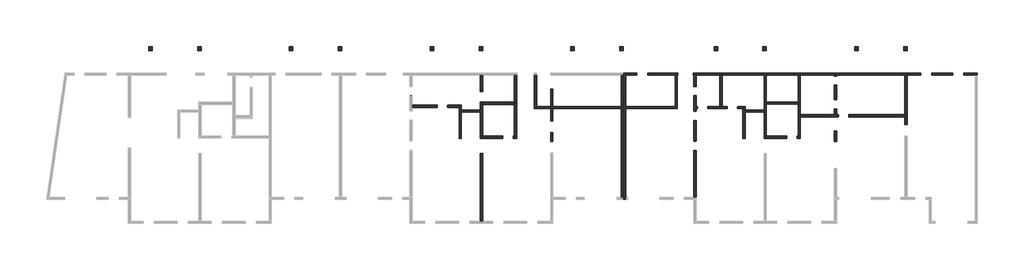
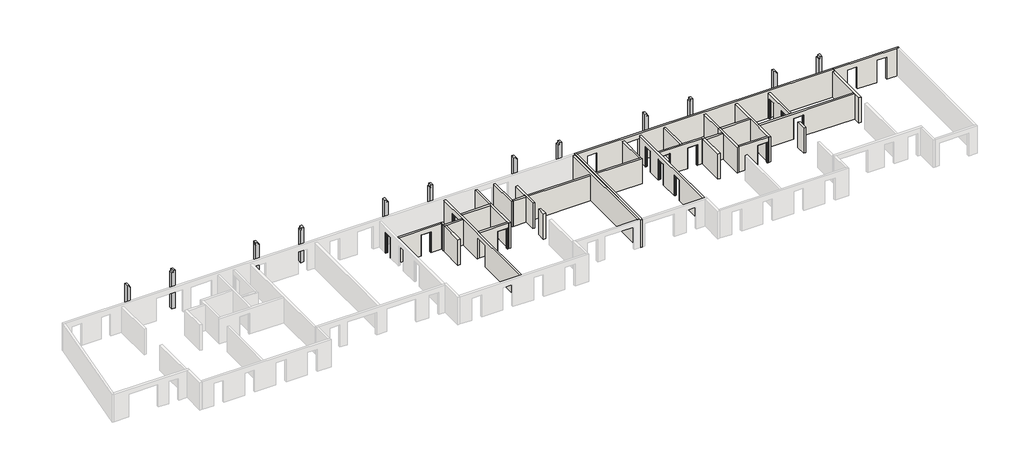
# One storey, part 2 of 2: 35 walls, 13 doors, 12 columns.
"""IFC4 building model written with IfcOpenShell, lengths in millimetres."""

from ifc_helpers import new_model, si_unit, frame, origin, origin_with_axes, place, context, project, spatial, polyline, outline, extrude, faceted_brep, transform, mapped, element, save
from components import door_48b161e2, door_a0d7bfd5, door_067a82eb

model = new_model("IFC4")

# Units and contexts
model_context = context("Model", 3, world=origin())
ifc_project = project(units=[si_unit("LENGTHUNIT", "METRE", prefix="MILLI")], contexts=[model_context])

# Site, building, storey
site = spatial("IfcSite", under=ifc_project)
building = spatial("IfcBuilding", under=site)
storey = spatial("IfcBuildingStorey", under=building, Name="Niv RdC-F", Elevation=0.0)

# Columns
placement = place(None, origin())
element("IfcColumn", 1, ObjectType="FREYS POTEAU BETON RECTANGULAIRE : Poteau 35*30 C25/30 EXT", at=placement, inside=storey, context=model_context, shape_type="Brep", body=[
    faceted_brep([(-22605.3743903, 8696.3428728, -1050.0), (-22605.3743903, 8346.3428728, -1050.0), (-22905.3743903, 8346.3428728, -1050.0), (-22905.3743903, 8696.3428728, -1050.0), (-22605.3743903, 8696.3428728, 2400.0), (-22605.3743903, 8696.3428728, 2500.0), (-22605.3743903, 8346.3428728, 2500.0), (-22605.3743903, 8346.3428728, 2400.0), (-22725.443151, 8346.3428728, 2500.0), (-22725.443151, 8346.3428728, 2700.0), (-22905.3743903, 8346.3428728, 2700.0), (-22905.3743903, 8696.3428728, 2700.0), (-22725.443151, 8696.3428728, 2700.0), (-22725.443151, 8696.3428728, 2500.0)], [[[0, 1, 2, 3]], [[1, 0, 4, 5, 6, 7]], [[2, 1, 7, 6, 8, 9, 10]], [[3, 2, 10, 11]], [[0, 3, 11, 12, 13, 5, 4]], [[11, 10, 9, 12]], [[13, 8, 6, 5]], [[8, 13, 12, 9]]]),
])
element("IfcColumn", 2, ObjectType="FREYS POTEAU BETON RECTANGULAIRE : Poteau 35*30 C25/30 EXT", at=placement, inside=storey, context=model_context, shape_type="Brep", body=[
    faceted_brep([(-18435.4687193, 8696.3428728, -1050.0), (-18435.4687193, 8346.3428728, -1050.0), (-18735.4687193, 8346.3428728, -1050.0), (-18735.4687193, 8696.3428728, -1050.0), (-18435.4687193, 8696.3428728, 2160.0), (-18435.4687193, 8696.3428728, 2700.0), (-18435.4687193, 8346.3428728, 2700.0), (-18435.4687193, 8346.3428728, 2160.0), (-18615.4433224, 8346.3428728, 2700.0), (-18615.4433224, 8346.3428728, 2500.0), (-18635.4687193, 8346.3428728, 2500.0), (-18735.4687193, 8346.3428728, 2500.0), (-18735.4687193, 8696.3428728, 2500.0), (-18635.4687193, 8696.3428728, 2500.0), (-18615.4433224, 8696.3428728, 2500.0), (-18615.4433224, 8696.3428728, 2700.0)], [[[0, 1, 2, 3]], [[1, 0, 4, 5, 6, 7]], [[2, 1, 7, 6, 8, 9, 10, 11]], [[3, 2, 11, 12]], [[0, 3, 12, 13, 14, 15, 5, 4]], [[6, 5, 15, 8]], [[9, 14, 13, 12, 11, 10]], [[14, 9, 8, 15]]]),
])
element("IfcColumn", 3, ObjectType="FREYS POTEAU BETON RECTANGULAIRE : Poteau 35*30 C25/30 EXT", at=placement, inside=storey, context=model_context, shape_type="Brep", body=[
    faceted_brep([(-10605.3743903, 8696.3428728, -690.0), (-10605.3743903, 8346.3428728, -690.0), (-10905.3743903, 8346.3428728, -690.0), (-10905.3743903, 8696.3428728, -690.0), (-10605.3743903, 8696.3428728, 2400.0), (-10605.3743903, 8696.3428728, 2500.0), (-10605.3743903, 8346.3428728, 2500.0), (-10605.3743903, 8346.3428728, 2400.0), (-10725.0456065, 8346.3428728, 2500.0), (-10725.0456065, 8346.3428728, 2700.0), (-10905.0456065, 8346.3428728, 2700.0), (-10905.3743903, 8346.3428728, 2700.0), (-10905.3743903, 8346.3428728, 2670.0057001), (-10905.0456065, 8346.3428728, 2670.0), (-10905.0456065, 8346.3428728, 2490.0), (-10905.3743903, 8346.3428728, 2490.0), (-10905.3743903, 8696.3428728, 2700.0), (-10905.3743903, 8696.3428728, 2670.0057001), (-10905.3743903, 8696.3428728, 2490.0), (-10905.0456065, 8696.3428728, 2490.0), (-10905.0456065, 8696.3428728, 2670.0), (-10905.0456065, 8696.3428728, 2700.0), (-10725.0456065, 8696.3428728, 2700.0), (-10725.0456065, 8696.3428728, 2500.0)], [[[0, 1, 2, 3]], [[1, 0, 4, 5, 6, 7]], [[2, 1, 7, 6, 8, 9, 10, 11, 12, 13, 14, 15]], [[11, 16, 17, 12]], [[0, 3, 18, 19, 20, 17, 16, 21, 22, 23, 5, 4]], [[16, 11, 10, 9, 22, 21]], [[23, 8, 6, 5]], [[8, 23, 22, 9]], [[14, 19, 18, 15]], [[19, 14, 13, 20]], [[20, 13, 12, 17]], [[3, 2, 15, 18]]]),
])
element("IfcColumn", 4, ObjectType="FREYS POTEAU BETON RECTANGULAIRE : Poteau 35*30 C25/30 EXT", at=placement, inside=storey, context=model_context, shape_type="Brep", body=[
    faceted_brep([(-6435.4687193, 8696.3428728, -690.0), (-6435.4687193, 8346.3428728, -690.0), (-6735.4687193, 8346.3428728, -690.0), (-6735.4687193, 8696.3428728, -690.0), (-6435.4687193, 8696.3428728, 2160.0), (-6435.4687193, 8696.3428728, 2700.0), (-6435.4687193, 8346.3428728, 2700.0), (-6435.4687193, 8346.3428728, 2160.0), (-6635.0711747, 8346.3428728, 2700.0), (-6635.4433224, 8346.3428728, 2700.0), (-6635.4433224, 8346.3428728, 2500.0), (-6735.4687193, 8346.3428728, 2500.0), (-6735.4687193, 8696.3428728, 2500.0), (-6635.4433224, 8696.3428728, 2500.0), (-6635.4433224, 8696.3428728, 2700.0), (-6635.0711747, 8696.3428728, 2700.0)], [[[0, 1, 2, 3]], [[1, 0, 4, 5, 6, 7]], [[2, 1, 7, 6, 8, 9, 10, 11]], [[3, 2, 11, 12]], [[0, 3, 12, 13, 14, 15, 5, 4]], [[6, 5, 15, 14, 9, 8]], [[10, 13, 12, 11]], [[13, 10, 9, 14]]]),
])
element("IfcColumn", 5, ObjectType="FREYS POTEAU BETON RECTANGULAIRE : Poteau 35*30 C25/30 EXT", at=placement, inside=storey, context=model_context, shape_type="Brep", body=[
    faceted_brep([(1394.6256097, 8696.3428728, -690.0), (1394.6256097, 8346.3428728, -690.0), (1094.6256097, 8346.3428728, -690.0), (1094.6256097, 8696.3428728, -690.0), (1394.6256097, 8696.3428728, 2400.0), (1394.6256097, 8696.3428728, 2500.0), (1394.6256097, 8346.3428728, 2500.0), (1394.6256097, 8346.3428728, 2400.0), (1274.556849, 8346.3428728, 2500.0), (1274.556849, 8346.3428728, 2700.0), (1094.6256097, 8346.3428728, 2700.0), (1094.6256097, 8696.3428728, 2700.0), (1274.556849, 8696.3428728, 2700.0), (1274.556849, 8696.3428728, 2500.0)], [[[0, 1, 2, 3]], [[1, 0, 4, 5, 6, 7]], [[2, 1, 7, 6, 8, 9, 10]], [[3, 2, 10, 11]], [[0, 3, 11, 12, 13, 5, 4]], [[11, 10, 9, 12]], [[13, 8, 6, 5]], [[8, 13, 12, 9]]]),
])
element("IfcColumn", 6, ObjectType="FREYS POTEAU BETON RECTANGULAIRE : Poteau 35*30 C25/30 EXT", at=placement, inside=storey, context=model_context, shape_type="Brep", body=[
    faceted_brep([(5564.5312807, 8696.3428728, -690.0), (5564.5312807, 8346.3428728, -690.0), (5264.5312807, 8346.3428728, -690.0), (5264.5312807, 8696.3428728, -690.0), (5564.5312807, 8696.3428728, 2160.0), (5564.5312807, 8696.3428728, 2700.0), (5564.5312807, 8346.3428728, 2700.0), (5564.5312807, 8346.3428728, 2160.0), (5374.5566776, 8346.3428728, 2700.0), (5374.5566776, 8346.3428728, 2500.0), (5364.5312807, 8346.3428728, 2500.0), (5264.5312807, 8346.3428728, 2500.0), (5264.5312807, 8696.3428728, 2500.0), (5364.5312807, 8696.3428728, 2500.0), (5374.5566776, 8696.3428728, 2500.0), (5374.5566776, 8696.3428728, 2700.0)], [[[0, 1, 2, 3]], [[1, 0, 4, 5, 6, 7]], [[2, 1, 7, 6, 8, 9, 10, 11]], [[3, 2, 11, 12]], [[0, 3, 12, 13, 14, 15, 5, 4]], [[6, 5, 15, 8]], [[9, 14, 13, 12, 11, 10]], [[14, 9, 8, 15]]]),
])
element("IfcColumn", 7, ObjectType="FREYS POTEAU BETON RECTANGULAIRE : Poteau 35*30 C25/30 EXT", at=placement, inside=storey, context=model_context, shape_type="Brep", body=[
    faceted_brep([(13394.6256097, 8696.3428728, -950.0), (13394.6256097, 8346.3428728, -950.0), (13094.6256097, 8346.3428728, -950.0), (13094.6256097, 8696.3428728, -950.0), (13394.6256097, 8696.3428728, 2400.0), (13394.6256097, 8696.3428728, 2500.0), (13394.6256097, 8346.3428728, 2500.0), (13394.6256097, 8346.3428728, 2400.0), (13275.4308018, 8346.3428728, 2500.0), (13275.4308018, 8346.3428728, 2700.0), (13094.6256097, 8346.3428728, 2700.0), (13094.6256097, 8696.3428728, 2700.0), (13275.4308018, 8696.3428728, 2700.0), (13275.4308018, 8696.3428728, 2500.0)], [[[0, 1, 2, 3]], [[1, 0, 4, 5, 6, 7]], [[2, 1, 7, 6, 8, 9, 10]], [[3, 2, 10, 11]], [[0, 3, 11, 12, 13, 5, 4]], [[11, 10, 9, 12]], [[13, 8, 6, 5]], [[8, 13, 12, 9]]]),
])
element("IfcColumn", 8, ObjectType="FREYS POTEAU BETON RECTANGULAIRE : Poteau 35*30 C25/30 EXT", at=placement, inside=storey, context=model_context, shape_type="Brep", body=[
    faceted_brep([(17554.5471618, 8696.3428728, -950.0), (17554.5471618, 8346.3428728, -950.0), (17254.5471618, 8346.3428728, -950.0), (17254.5471618, 8696.3428728, -950.0), (17554.5471618, 8696.3428728, 2160.0), (17554.5471618, 8696.3428728, 2700.0), (17554.5471618, 8346.3428728, 2700.0), (17554.5471618, 8346.3428728, 2160.0), (17374.5566776, 8346.3428728, 2700.0), (17374.5566776, 8346.3428728, 2500.0), (17364.5312807, 8346.3428728, 2500.0), (17254.5471618, 8346.3428728, 2500.0), (17254.5471618, 8696.3428728, 2500.0), (17364.5312807, 8696.3428728, 2500.0), (17374.5566776, 8696.3428728, 2500.0), (17374.5566776, 8696.3428728, 2700.0)], [[[0, 1, 2, 3]], [[1, 0, 4, 5, 6, 7]], [[2, 1, 7, 6, 8, 9, 10, 11]], [[3, 2, 11, 12]], [[0, 3, 12, 13, 14, 15, 5, 4]], [[6, 5, 15, 8]], [[9, 14, 13, 12, 11, 10]], [[14, 9, 8, 15]]]),
])
element("IfcColumn", 9, ObjectType="FREYS POTEAU BETON RECTANGULAIRE : Poteau 35*30 C25/30 EXT", at=placement, inside=storey, context=model_context, shape_type="Brep", body=[
    faceted_brep([(25594.6256097, 8696.3428728, 40.0), (25594.6256097, 8346.3428728, 40.0), (25294.6256097, 8346.3428728, 40.0), (25294.6256097, 8696.3428728, 40.0), (25594.6256097, 8696.3428728, 2400.0), (25594.6256097, 8696.3428728, 2500.0), (25594.6256097, 8346.3428728, 2500.0), (25594.6256097, 8346.3428728, 2400.0), (25474.556849, 8346.3428728, 2500.0), (25474.556849, 8346.3428728, 2700.0), (25294.6256097, 8346.3428728, 2700.0), (25294.6256097, 8696.3428728, 2700.0), (25474.556849, 8696.3428728, 2700.0), (25474.556849, 8696.3428728, 2500.0)], [[[0, 1, 2, 3]], [[1, 0, 4, 5, 6, 7]], [[2, 1, 7, 6, 8, 9, 10]], [[3, 2, 10, 11]], [[0, 3, 11, 12, 13, 5, 4]], [[11, 10, 9, 12]], [[13, 8, 6, 5]], [[8, 13, 12, 9]]]),
])
element("IfcColumn", 10, ObjectType="FREYS POTEAU BETON RECTANGULAIRE : Poteau 35*30 C25/30 EXT", at=placement, inside=storey, context=model_context, shape_type="Brep", body=[
    faceted_brep([(29764.5312807, 8696.3428728, 40.0), (29764.5312807, 8346.3428728, 40.0), (29464.5312807, 8346.3428728, 40.0), (29464.5312807, 8696.3428728, 40.0), (29764.5312807, 8696.3428728, 2160.0), (29764.5312807, 8696.3428728, 2700.0), (29764.5312807, 8346.3428728, 2700.0), (29764.5312807, 8346.3428728, 2160.0), (29584.5566776, 8346.3428728, 2700.0), (29584.5566776, 8346.3428728, 2500.0), (29564.5312807, 8346.3428728, 2500.0), (29464.5312807, 8346.3428728, 2500.0), (29464.5312807, 8696.3428728, 2500.0), (29564.5312807, 8696.3428728, 2500.0), (29584.5566776, 8696.3428728, 2500.0), (29584.5566776, 8696.3428728, 2700.0)], [[[0, 1, 2, 3]], [[1, 0, 4, 5, 6, 7]], [[2, 1, 7, 6, 8, 9, 10, 11]], [[3, 2, 11, 12]], [[0, 3, 12, 13, 14, 15, 5, 4]], [[6, 5, 15, 8]], [[9, 14, 13, 12, 11, 10]], [[14, 9, 8, 15]]]),
])
element("IfcColumn", 11, ObjectType="FREYS POTEAU BETON RECTANGULAIRE : Poteau 35*30 C25/30 EXT", at=placement, inside=storey, context=model_context, shape_type="Brep", body=[
    faceted_brep([(37594.6256097, 8696.3428728, 40.0), (37594.6256097, 8346.3428728, 40.0), (37294.6256097, 8346.3428728, 40.0), (37294.6256097, 8696.3428728, 40.0), (37594.6256097, 8696.3428728, 2400.0), (37594.6256097, 8696.3428728, 2500.0), (37594.6256097, 8346.3428728, 2500.0), (37594.6256097, 8346.3428728, 2400.0), (37474.5566776, 8346.3428728, 2500.0), (37474.5566776, 8346.3428728, 2700.0), (37294.6256097, 8346.3428728, 2700.0), (37294.6256097, 8696.3428728, 2700.0), (37474.5566776, 8696.3428728, 2700.0), (37474.5566776, 8696.3428728, 2500.0)], [[[0, 1, 2, 3]], [[1, 0, 4, 5, 6, 7]], [[2, 1, 7, 6, 8, 9, 10]], [[3, 2, 10, 11]], [[0, 3, 11, 12, 13, 5, 4]], [[11, 10, 9, 12]], [[13, 8, 6, 5]], [[8, 13, 12, 9]]]),
])
element("IfcColumn", 12, ObjectType="FREYS POTEAU BETON RECTANGULAIRE : Poteau 35*30 C25/30 EXT", at=placement, inside=storey, context=model_context, shape_type="Brep", body=[
    faceted_brep([(41764.5312807, 8696.3428728, 350.0), (41764.5312807, 8346.3428728, 350.0), (41464.5312807, 8346.3428728, 350.0), (41464.5312807, 8696.3428728, 350.0), (41764.5312807, 8696.3428728, 2160.0), (41764.5312807, 8696.3428728, 2700.0), (41764.5312807, 8346.3428728, 2700.0), (41764.5312807, 8346.3428728, 2160.0), (41564.5566776, 8346.3428728, 2700.0), (41564.5566776, 8346.3428728, 2500.0), (41464.5312807, 8346.3428728, 2500.0), (41464.5312807, 8696.3428728, 2500.0), (41564.5566776, 8696.3428728, 2500.0), (41564.5566776, 8696.3428728, 2700.0)], [[[0, 1, 2, 3]], [[1, 0, 4, 5, 6, 7]], [[2, 1, 7, 6, 8, 9, 10]], [[3, 2, 10, 11]], [[0, 3, 11, 12, 13, 5, 4]], [[6, 5, 13, 8]], [[9, 12, 11, 10]], [[12, 9, 8, 13]]]),
])

# Doors
door_shape = door_48b161e2(model_context)
element("IfcDoor", 13, ObjectType="FREYS HUISSERIE A BANCHER : FREYS 83*2.035", at=placement, inside=storey, context=model_context, shape_type="MappedRepresentation", body=[
    mapped(door_shape, transform((-535.4687207, 4861.1247819, 0.0), x_axis=(0.0, -1.0, 0.0), y_axis=(1.0, 0.0, 0.0), z_axis=(0.0, 0.0, 1.0))),
])
element("IfcDoor", 14, ObjectType="FREYS HUISSERIE A BANCHER : FREYS 83*2.035", at=placement, inside=storey, context=model_context, shape_type="MappedRepresentation", body=[
    mapped(door_shape, transform((23664.5564317, 4876.1247664, 0.0), x_axis=(0.0, -1.0, 0.0), y_axis=(1.0, 0.0, 0.0), z_axis=(0.0, 0.0, 1.0))),
])
element("IfcDoor", 15, ObjectType="FREYS HUISSERIE A BANCHER : FREYS 83*2.035", at=placement, inside=storey, context=model_context, shape_type="MappedRepresentation", body=[
    mapped(door_shape, transform((23664.5564317, 2756.1563277, 0.0), x_axis=(0.0, -1.0, 0.0), y_axis=(1.0, 0.0, 0.0), z_axis=(0.0, 0.0, 1.0))),
])
element("IfcDoor", 16, ObjectType="FREYS HUISSERIE A BANCHER : FREYS 83*2.035", at=placement, inside=storey, context=model_context, shape_type="MappedRepresentation", body=[
    mapped(door_shape, transform((23664.5564317, 222.4877305, 0.0), x_axis=(0.0, 1.0, 0.0), y_axis=(-1.0, 0.0, 0.0), z_axis=(0.0, 0.0, 1.0))),
])
element("IfcDoor", 17, ObjectType="FREYS HUISSERIE A BANCHER : FREYS 83*2.035", at=placement, inside=storey, context=model_context, shape_type="MappedRepresentation", body=[
    mapped(door_shape, transform((35665.2937926, 5773.1542132, 0.0), x_axis=(0.0, -1.0, 0.0), y_axis=(1.0, 0.0, 0.0), z_axis=(0.0, 0.0, 1.0))),
])
element("IfcDoor", 18, ObjectType="FREYS HUISSERIE A BANCHER : FREYS 83*2.035", at=placement, inside=storey, context=model_context, shape_type="MappedRepresentation", body=[
    mapped(door_shape, transform((35665.2937926, 3743.1542132, 0.0), x_axis=(0.0, -1.0, 0.0), y_axis=(1.0, 0.0, 0.0), z_axis=(0.0, 0.0, 1.0))),
])
door_2_shape = door_a0d7bfd5(model_context)
element("IfcDoor", 19, ObjectType="FREYS HUISSERIE A BANCHER : FREYS 93*2.035", at=placement, inside=storey, context=model_context, shape_type="MappedRepresentation", body=[
    mapped(door_2_shape, transform((7719.3181732, 946.3022753, 0.0), x_axis=(-1.0, 0.0, 0.0), y_axis=(0.0, -1.0, 0.0), z_axis=(0.0, 0.0, 1.0))),
])
element("IfcDoor", 20, ObjectType="FREYS HUISSERIE A BANCHER : FREYS 93*2.035", at=placement, inside=storey, context=model_context, shape_type="MappedRepresentation", body=[
    mapped(door_2_shape, transform((31922.0230132, 946.3174361, 0.0), x_axis=(-1.0, 0.0, 0.0), y_axis=(0.0, -1.0, 0.0), z_axis=(0.0, 0.0, 1.0))),
])
element("IfcDoor", 21, ObjectType="FREYS HUISSERIE A BANCHER : FREYS 93*2.035", at=placement, inside=storey, context=model_context, shape_type="MappedRepresentation", body=[
    mapped(door_2_shape, transform((2137.6947499, 3586.3145698, 0.0), x_axis=(1.0, 0.0, 0.0), y_axis=(0.0, 1.0, 0.0), z_axis=(0.0, 0.0, 1.0))),
])
element("IfcDoor", 22, ObjectType="FREYS HUISSERIE A BANCHER : FREYS 93*2.035", at=placement, inside=storey, context=model_context, shape_type="MappedRepresentation", body=[
    mapped(door_2_shape, transform((24321.3677749, 3466.3174477, 0.0), x_axis=(-1.0, 0.0, 0.0), y_axis=(0.0, -1.0, 0.0), z_axis=(0.0, 0.0, 1.0))),
])
element("IfcDoor", 23, ObjectType="FREYS HUISSERIE A BANCHER : FREYS 93*2.035", at=placement, inside=storey, context=model_context, shape_type="MappedRepresentation", body=[
    mapped(door_2_shape, transform((26851.3174382, 3466.3174477, 0.0), x_axis=(-1.0, 0.0, 0.0), y_axis=(0.0, -1.0, 0.0), z_axis=(0.0, 0.0, 1.0))),
])
element("IfcDoor", 24, ObjectType="FREYS HUISSERIE A BANCHER : FREYS 93*2.035", at=placement, inside=storey, context=model_context, shape_type="MappedRepresentation", body=[
    mapped(door_2_shape, transform((36342.1051359, 2776.3425364, 0.0), x_axis=(-1.0, 0.0, 0.0), y_axis=(0.0, -1.0, 0.0), z_axis=(0.0, 0.0, 1.0))),
])
door_3_shape = door_067a82eb(model_context)
element("IfcDoor", 25, ObjectType="FREYS HUISSERIE A BANCHER : FREYS 93*2.035", at=placement, inside=storey, context=model_context, shape_type="MappedRepresentation", body=[
    mapped(door_3_shape, transform((5464.5312777, 4409.5061084, 0.0), x_axis=(0.0, 1.0, 0.0), y_axis=(-1.0, 0.0, 0.0), z_axis=(0.0, 0.0, 1.0))),
])

# Walls
element("IfcWall", 26, ObjectType="FREYS voile BA C25/30 ep=18 INT", at=placement, inside=storey, context=model_context, shape_type="Brep", body=[
    faceted_brep([(17594.5566776, 6426.3428699, 0.0), (17594.5566776, -4353.682553, 0.0), (17594.5566776, -4353.682553, 2700.0), (17594.5566776, 6426.3428699, 2700.0), (17774.5566776, 6426.3428699, 0.0), (17774.5566776, 6426.3428699, 2700.0), (17774.5566776, 6246.3428699, 2700.0), (17774.5566776, -4173.682553, 2700.0), (17774.5566776, -4353.682553, 2700.0), (17774.5566776, -4353.682553, 0.0), (17774.5566776, -4173.682553, 0.0), (17774.5566776, 3376.3174477, 0.0), (17774.5566776, 3556.3174477, 0.0), (17774.5566776, 6246.3428699, 0.0)], [[[0, 1, 2, 3]], [[4, 5, 6, 7, 8, 9, 10, 11, 12, 13]], [[1, 0, 4, 13, 12, 11, 10, 9]], [[3, 2, 8, 7, 6, 5]], [[2, 1, 9, 8]], [[0, 3, 5, 4]]]),
])
element("IfcWall", 27, ObjectType="FREYS voile BA C25/30 ep=20 INT", at=placement, inside=storey, context=model_context, shape_type="Brep", body=[
    faceted_brep([(23564.5564317, 2349.3449844, 0.0), (23564.5564317, 629.2990738, 0.0), (23564.5564317, 629.2990738, 2035.0), (23564.5564317, -200.7009262, 2035.0), (23564.5564317, -200.7009262, 0.0), (23564.5564317, -4163.6571301, 0.0), (23564.5564317, -4163.6571301, 2500.0), (23564.5564317, 6246.3428699, 2500.0), (23564.5564317, 6246.3428699, 0.0), (23564.5564317, 5299.3134231, 0.0), (23564.5564317, 5299.3134231, 2035.0), (23564.5564317, 4469.3134231, 2035.0), (23564.5564317, 4469.3134231, 0.0), (23564.5564317, 3179.3449844, 0.0), (23564.5564317, 3179.3449844, 2035.0), (23564.5564317, 2349.3449844, 2035.0), (23764.5564317, 629.2990738, 2035.0), (23764.5564317, 629.2990738, 0.0), (23764.5564317, 2349.3449844, 0.0), (23764.5564317, 2349.3449844, 2035.0), (23764.5564317, 3179.3449844, 2035.0), (23764.5564317, 3179.3449844, 0.0), (23764.5564317, 3376.3174477, 0.0), (23764.5564317, 3556.3174477, 0.0), (23764.5564317, 4469.3134231, 0.0), (23764.5564317, 4469.3134231, 2035.0), (23764.5564317, 5299.3134231, 2035.0), (23764.5564317, 5299.3134231, 0.0), (23764.5564317, 6246.3428699, 0.0), (23764.5564317, 6246.3428699, 2500.0), (23764.5564317, -4163.6571301, 2500.0), (23764.5564317, -4163.6571301, 0.0), (23764.5564317, -200.7009262, 0.0), (23764.5564317, -200.7009262, 2035.0)], [[[0, 1, 2, 3, 4, 5, 6, 7, 8, 9, 10, 11, 12, 13, 14, 15]], [[16, 17, 18, 19, 20, 21, 22, 23, 24, 25, 26, 27, 28, 29, 30, 31, 32, 33]], [[9, 8, 28, 27]], [[13, 12, 24, 23, 22, 21]], [[32, 31, 5, 4]], [[18, 17, 1, 0]], [[6, 5, 31, 30]], [[7, 6, 30, 29]], [[8, 7, 29, 28]], [[27, 26, 10, 9]], [[25, 24, 12, 11]], [[26, 25, 11, 10]], [[21, 20, 14, 13]], [[19, 18, 0, 15]], [[20, 19, 15, 14]], [[4, 3, 33, 32]], [[2, 1, 17, 16]], [[3, 2, 16, 33]]]),
])
element("IfcWall", 28, ObjectType="FREYS voile BA C25/30 ep=20 INT", at=placement, inside=storey, context=model_context, shape_type="Brep", body=[
    faceted_brep([(27964.5312756, 856.3174386, 0.0), (27964.5312756, 3086.3428384, 0.0), (27964.5312756, 3286.3428384, 0.0), (27964.5312756, 3286.3428384, 2500.0), (27964.5312756, 3086.3428384, 2500.0), (27964.5312756, 856.3174386, 2500.0), (27764.5312756, 856.3174386, 0.0), (27764.5312756, 856.3174386, 2500.0), (27764.5312756, 3286.3428384, 2500.0), (27764.5312756, 3286.3428384, 0.0)], [[[0, 1, 2, 3, 4, 5]], [[6, 7, 8, 9]], [[2, 1, 0, 6, 9]], [[5, 4, 3, 8, 7]], [[0, 5, 7, 6]], [[3, 2, 9, 8]]]),
])
element("IfcWall", 29, ObjectType="FREYS voile BA C25/30 ep=20 INT", at=placement, inside=storey, context=model_context, shape_type="SweptSolid", body=[
    extrude(outline(polyline([(29564.5058756, 3086.3428384), (27964.5312756, 3086.3428384), (27964.5312756, 3286.3428384), (29564.5058756, 3286.3428384), (29564.5058756, 3086.3428384)])), origin_with_axes(), (0.0, 0.0, 1.0), 2500.0),
])
element("IfcWall", 30, ObjectType="FREYS voile BA C25/30 ep=20 INT", at=placement, inside=storey, context=model_context, shape_type="Brep", body=[
    faceted_brep([(29764.5058756, 856.3174361, 0.0), (29764.5058756, 1036.3174361, 0.0), (29764.5058756, 3756.3174386, 0.0), (29764.5058756, 3936.3174386, 0.0), (29764.5058756, 3936.3174386, 2500.0), (29764.5058756, 3756.3174386, 2500.0), (29764.5058756, 1036.3174361, 2500.0), (29764.5058756, 856.3174361, 2500.0), (29564.5058756, 856.3174361, 0.0), (29564.5058756, 856.3174361, 2500.0), (29564.5058756, 3086.3428384, 2500.0), (29564.5058756, 3286.3428384, 2500.0), (29564.5058756, 3936.3174386, 2500.0), (29564.5058756, 3936.3174386, 0.0), (29564.5058756, 3286.3428384, 0.0), (29564.5058756, 3086.3428384, 0.0)], [[[0, 1, 2, 3, 4, 5, 6, 7]], [[8, 9, 10, 11, 12, 13, 14, 15]], [[3, 2, 1, 0, 8, 15, 14, 13]], [[7, 6, 5, 4, 12, 11, 10, 9]], [[0, 7, 9, 8]], [[3, 13, 12, 4]]]),
])
element("IfcWall", 31, ObjectType="FREYS voile BA C25/30 ep=20 INT", at=placement, inside=storey, context=model_context, shape_type="Brep", body=[
    faceted_brep([(41564.5566776, 6246.3428699, 0.0), (41564.5566776, 2866.3425364, 0.0), (41564.5566776, 2686.3425364, 0.0), (41564.5566776, 2016.3428653, 0.0), (41564.5566776, 2016.3428653, 2500.0), (41564.5566776, 6246.3428699, 2500.0), (41764.5566776, 6246.3428699, 0.0), (41764.5566776, 6246.3428699, 2500.0), (41764.5566776, 2016.3428653, 2500.0), (41764.5566776, 2016.3428653, 0.0), (41664.5566776, 6246.3428699, 2500.0)], [[[0, 1, 2, 3, 4, 5]], [[6, 7, 8, 9]], [[3, 2, 1, 0, 6, 9]], [[4, 3, 9, 8]], [[5, 4, 8, 7, 10]], [[0, 5, 10, 7, 6]]]),
])
element("IfcWall", 32, ObjectType="FREYS voile BA C25/30 ep=18 EXT", at=placement, inside=storey, context=model_context, shape_type="SweptSolid", body=[
    extrude(outline(polyline([(2700.0, 47754.5312794), (2700.0, 41664.5566776), (2500.0, 41664.5566776), (2500.0, 41764.5566776), (0.0, 41764.5566776), (0.0, 42924.558267), (2180.0, 42924.558267), (2180.0, 43864.558267), (0.0, 43864.558267), (0.0, 45644.5574723), (2180.0, 45644.5574723), (2180.0, 46584.5574723), (0.0, 46584.5574723), (0.0, 47754.5312794), (2700.0, 47754.5312794)])), frame((0.0, 6246.3428699, 0.0), z_axis=(0.0, 1.0, 0.0), x_axis=(0.0, 0.0, 1.0)), (0.0, 0.0, 1.0), 180.0),
])
element("IfcWall", 33, ObjectType="FREYS voile BA C25/30 ep=18 INT", at=placement, inside=storey, context=model_context, shape_type="Brep", body=[
    faceted_brep([(32484.5576436, 6246.3428699, 0.0), (32484.5576436, 3936.3174386, 0.0), (32484.5576436, 3756.3174386, 0.0), (32484.5576436, 1036.3174361, 0.0), (32484.5576436, 856.3174361, 0.0), (32484.5576436, 856.3174361, 2500.0), (32484.5576436, 1036.3174361, 2500.0), (32484.5576436, 3756.3174386, 2500.0), (32484.5576436, 3936.3174386, 2500.0), (32484.5576436, 6246.3428699, 2500.0), (32664.5576436, 6246.3428699, 0.0), (32664.5576436, 6246.3428699, 2500.0), (32664.5576436, 856.3174361, 2500.0), (32664.5576436, 856.3174361, 0.0), (32664.5576436, 2686.3425364, 0.0), (32664.5576436, 2866.3425364, 0.0)], [[[0, 1, 2, 3, 4, 5, 6, 7, 8, 9]], [[10, 11, 12, 13, 14, 15]], [[4, 3, 2, 1, 0, 10, 15, 14, 13]], [[9, 8, 7, 6, 5, 12, 11]], [[5, 4, 13, 12]], [[0, 9, 11, 10]]]),
])
element("IfcWall", 34, ObjectType="FREYS voile BA C25/30 ep=18 INT", at=placement, inside=storey, context=model_context, shape_type="SweptSolid", body=[
    extrude(outline(polyline([(0.0, 29764.5058756), (0.0, 31465.2116699), (2035.0, 31465.2116699), (2035.0, 32395.2116699), (0.0, 32395.2116699), (0.0, 32484.5576436), (2500.0, 32484.5576436), (2500.0, 29764.5058756), (0.0, 29764.5058756)])), frame((0.0, 856.3174361, 0.0), z_axis=(0.0, 1.0, 0.0), x_axis=(0.0, 0.0, 1.0)), (0.0, 0.0, 1.0), 180.0),
])
element("IfcWall", 35, ObjectType="FREYS voile BA C25/30 ep=18 INT", at=placement, inside=storey, context=model_context, shape_type="SweptSolid", body=[
    extrude(outline(polyline([(32484.5576436, 3756.3174386), (29764.5058756, 3756.3174386), (29764.5058756, 3936.3174386), (32484.5576436, 3936.3174386), (32484.5576436, 3756.3174386)])), origin_with_axes(), (0.0, 0.0, 1.0), 2500.0),
])
element("IfcWall", 36, ObjectType="FREYS voile BA C25/30 ep=18 EXT", at=placement, inside=storey, context=model_context, shape_type="Brep", body=[
    faceted_brep([(41764.5566776, 6426.3428699, 0.0), (23544.5564317, 6426.3428699, 0.0), (23544.5564317, 6426.3428699, 2210.0), (22204.5564317, 6426.3428699, 2210.0), (22204.5564317, 6426.3428699, 0.0), (19664.558267, 6426.3428699, 0.0), (19664.558267, 6426.3428699, 2180.0), (18724.558267, 6426.3428699, 2180.0), (18724.558267, 6426.3428699, 0.0), (17774.5566776, 6426.3428699, 0.0), (17774.5566776, 6426.3428699, 2700.0), (41664.5566776, 6426.3428699, 2700.0), (41664.5566776, 6426.3428699, 2500.0), (41764.5566776, 6426.3428699, 2500.0), (23544.5564317, 6246.3428699, 2210.0), (23544.5564317, 6246.3428699, 0.0), (23564.5564317, 6246.3428699, 0.0), (23764.5564317, 6246.3428699, 0.0), (25804.5060949, 6246.3428699, 0.0), (25984.5060949, 6246.3428699, 0.0), (29564.5058756, 6246.3428699, 0.0), (29764.5058756, 6246.3428699, 0.0), (32484.5576436, 6246.3428699, 0.0), (32664.5576436, 6246.3428699, 0.0), (35565.2937926, 6246.3428699, 0.0), (35765.2937926, 6246.3428699, 0.0), (41564.5566776, 6246.3428699, 0.0), (41764.5566776, 6246.3428699, 0.0), (41764.5566776, 6246.3428699, 2500.0), (41664.5566776, 6246.3428699, 2500.0), (41664.5566776, 6246.3428699, 2700.0), (17774.5566776, 6246.3428699, 2700.0), (17774.5566776, 6246.3428699, 0.0), (18724.558267, 6246.3428699, 0.0), (18724.558267, 6246.3428699, 2180.0), (19664.558267, 6246.3428699, 2180.0), (19664.558267, 6246.3428699, 0.0), (21984.5312775, 6246.3428699, 0.0), (22164.5312775, 6246.3428699, 0.0), (22204.5564317, 6246.3428699, 0.0), (22204.5564317, 6246.3428699, 2210.0)], [[[0, 1, 2, 3, 4, 5, 6, 7, 8, 9, 10, 11, 12, 13]], [[14, 15, 16, 17, 18, 19, 20, 21, 22, 23, 24, 25, 26, 27, 28, 29, 30, 31, 32, 33, 34, 35, 36, 37, 38, 39, 40]], [[32, 9, 8, 33]], [[27, 26, 25, 24, 23, 22, 21, 20, 19, 18, 17, 16, 15, 1, 0]], [[39, 38, 37, 36, 5, 4]], [[11, 10, 31, 30]], [[10, 9, 32, 31]], [[7, 34, 33, 8]], [[35, 6, 5, 36]], [[34, 7, 6, 35]], [[4, 3, 40, 39]], [[2, 1, 15, 14]], [[3, 2, 14, 40]], [[11, 30, 29, 12]], [[12, 29, 28, 13]], [[27, 0, 13, 28]]]),
])
element("IfcWall", 37, ObjectType="FREYS voile BA C25/30 ep=18 INT", at=placement, inside=storey, context=model_context, shape_type="Brep", body=[
    faceted_brep([(8282.6226054, 3836.3174518, 0.0), (8282.6226054, 3736.3174518, 0.0), (8282.6226054, 1036.3022753, 0.0), (8282.6226054, 856.3022753, 0.0), (8282.6226054, 856.3022753, 2500.0), (8282.6226054, 1036.3022753, 2500.0), (8282.6226054, 3736.3174518, 2500.0), (8282.6226054, 3936.3174518, 2500.0), (8282.6226054, 3936.3174518, 2480.0), (8282.6226054, 3836.3174518, 2480.0), (8462.6226054, 3836.3174518, 0.0), (8462.6226054, 3836.3174518, 2480.0), (8462.6226054, 3936.3174518, 2480.0), (8462.6226054, 3936.3174518, 2500.0), (8462.6226054, 856.3022753, 2500.0), (8462.6226054, 856.3022753, 0.0)], [[[0, 1, 2, 3, 4, 5, 6, 7, 8, 9]], [[10, 11, 12, 13, 14, 15]], [[3, 2, 1, 0, 10, 15]], [[7, 6, 5, 4, 14, 13]], [[4, 3, 15, 14]], [[0, 9, 11, 10]], [[8, 12, 11, 9]], [[8, 7, 13, 12]]]),
])
element("IfcWall", 38, ObjectType="FREYS voile BA C25/30 ep=18 INT", at=placement, inside=storey, context=model_context, shape_type="Brep", body=[
    faceted_brep([(7262.5068299, 1036.3022753, 2035.0), (7262.5068299, 1036.3022753, 0.0), (5564.5312777, 1036.3022753, 0.0), (5564.5312777, 1036.3022753, 2500.0), (8282.6226054, 1036.3022753, 2500.0), (8282.6226054, 1036.3022753, 0.0), (8192.5068299, 1036.3022753, 0.0), (8192.5068299, 1036.3022753, 2035.0), (5564.5312777, 856.3022753, 0.0), (7262.5068299, 856.3022753, 0.0), (7262.5068299, 856.3022753, 2035.0), (8192.5068299, 856.3022753, 2035.0), (8192.5068299, 856.3022753, 0.0), (8282.6226054, 856.3022753, 0.0), (8282.6226054, 856.3022753, 2500.0), (5564.5312777, 856.3022753, 2500.0), (5564.5312777, 856.3022753, 2090.0)], [[[0, 1, 2, 3, 4, 5, 6, 7]], [[8, 9, 10, 11, 12, 13, 14, 15, 16]], [[6, 5, 13, 12]], [[2, 1, 9, 8]], [[4, 3, 15, 14]], [[5, 4, 14, 13]], [[3, 2, 8, 16, 15]], [[12, 11, 7, 6]], [[10, 9, 1, 0]], [[11, 10, 0, 7]]]),
])
element("IfcWall", 39, ObjectType="FREYS voile BA C25/30 ep=20 INT", at=placement, inside=storey, context=model_context, shape_type="Brep", body=[
    faceted_brep([(8282.6226054, 3936.3174518, 2500.0), (8282.6226054, 3936.3174518, 2480.0), (8282.6226054, 3936.3174518, 0.0), (5564.5312777, 3936.3174518, 0.0), (5564.5312777, 3936.3174518, 2035.0), (5564.5312777, 3936.3174518, 2500.0), (8282.6226054, 3736.3174518, 0.0), (8282.6226054, 3736.3174518, 2500.0), (5564.5312777, 3736.3174518, 2500.0), (5564.5312777, 3736.3174518, 0.0), (8282.6226054, 3836.3174518, 0.0)], [[[0, 1, 2, 3, 4, 5]], [[6, 7, 8, 9]], [[3, 2, 10, 6, 9]], [[0, 5, 8, 7]], [[5, 4, 3, 9, 8]], [[0, 7, 6, 10, 2, 1]]]),
])
element("IfcWall", 40, ObjectType="FREYS voile BA C25/30 ep=20 INT", at=placement, inside=storey, context=model_context, shape_type="Brep", body=[
    faceted_brep([(5364.5312777, 6246.3702418, 0.0), (5364.5312777, 4866.3174517, 0.0), (5364.5312777, 4866.3174517, 2035.0), (5364.5312777, 3936.3174517, 2035.0), (5364.5312777, 3936.3174517, 0.0), (5364.5312777, 3286.3428538, 0.0), (5364.5312777, 3086.3428538, 0.0), (5364.5312777, 856.3022753, 0.0), (5364.5312777, 856.3022753, 2090.0), (5364.5312777, -433.6977247, 2090.0), (5364.5312777, -433.6977247, 0.0), (5364.5312777, -6223.682546, 0.0), (5364.5312777, -6223.682546, 2500.0), (5364.5312777, 3086.3428538, 2500.0), (5364.5312777, 3286.3428538, 2500.0), (5364.5312777, 6246.3702418, 2500.0), (5564.5312777, 4866.3174517, 2035.0), (5564.5312777, 4866.3174517, 0.0), (5564.5312777, 6246.3702418, 0.0), (5564.5312777, 6246.3702418, 2500.0), (5564.5312777, 3936.3174518, 2500.0), (5564.5312777, 3736.3174518, 2500.0), (5564.5312777, 1036.3022753, 2500.0), (5564.5312777, 856.3022753, 2500.0), (5564.5312777, -6223.682546, 2500.0), (5564.5312777, -6223.682546, 0.0), (5564.5312777, -433.6977247, 0.0), (5564.5312777, -433.6977247, 2090.0), (5564.5312777, 856.3022753, 2090.0), (5564.5312777, 856.3022753, 0.0), (5564.5312777, 1036.3022753, 0.0), (5564.5312777, 3736.3174518, 0.0), (5564.5312777, 3936.3174517, 0.0), (5564.5312777, 3936.3174517, 2035.0)], [[[0, 1, 2, 3, 4, 5, 6, 7, 8, 9, 10, 11, 12, 13, 14, 15]], [[16, 17, 18, 19, 20, 21, 22, 23, 24, 25, 26, 27, 28, 29, 30, 31, 32, 33]], [[11, 10, 26, 25]], [[18, 17, 1, 0]], [[32, 31, 30, 29, 7, 6, 5, 4]], [[15, 14, 13, 12, 24, 23, 22, 21, 20, 19]], [[12, 11, 25, 24]], [[29, 28, 8, 7]], [[27, 26, 10, 9]], [[28, 27, 9, 8]], [[0, 15, 19, 18]], [[4, 3, 33, 32]], [[2, 1, 17, 16]], [[3, 2, 16, 33]]]),
])
element("IfcWall", 41, ObjectType="FREYS voile BA C25/30 ep=20 INT", at=placement, inside=storey, context=model_context, shape_type="Brep", body=[
    faceted_brep([(5364.5312777, 3286.3428538, 0.0), (3564.5312756, 3286.3428538, 0.0), (3564.5312756, 3286.3428538, 2500.0), (5364.5312777, 3286.3428538, 2500.0), (5364.5312777, 3086.3428538, 0.0), (5364.5312777, 3086.3428538, 2500.0), (3764.5312756, 3086.3428538, 2500.0), (3564.5312756, 3086.3428538, 2500.0), (3564.5312756, 3086.3428538, 0.0), (3764.5312756, 3086.3428538, 0.0)], [[[0, 1, 2, 3]], [[4, 5, 6, 7, 8, 9]], [[1, 0, 4, 9, 8]], [[3, 2, 7, 6, 5]], [[0, 3, 5, 4]], [[2, 1, 8, 7]]]),
])
element("IfcWall", 42, ObjectType="FREYS voile BA C25/30 ep=20 INT", at=placement, inside=storey, context=model_context, shape_type="SweptSolid", body=[
    extrude(outline(polyline([(3564.5312756, 856.3022753), (3564.5312756, 3086.3428538), (3764.5312756, 3086.3428538), (3764.5312756, 856.3022753), (3564.5312756, 856.3022753)])), origin_with_axes(), (0.0, 0.0, 1.0), 2500.0),
])
element("IfcWall", 43, ObjectType="FREYS voile BA C25/30 ep=20 INT", at=placement, inside=storey, context=model_context, shape_type="Brep", body=[
    faceted_brep([(11364.5281637, 5046.3428699, 0.0), (11364.5281637, 3556.3174488, 0.0), (11364.5281637, 3376.3174488, 0.0), (11364.5281637, 2306.3428699, 0.0), (11364.5281637, 2306.3428699, 2500.0), (11364.5281637, 5046.3428699, 2500.0), (11564.5281637, 5046.3428699, 0.0), (11564.5281637, 5046.3428699, 2500.0), (11564.5281637, 2306.3428699, 2500.0), (11564.5281637, 2306.3428699, 0.0), (11564.5281637, 3376.3174477, 0.0), (11564.5281637, 3556.3174477, 0.0)], [[[0, 1, 2, 3, 4, 5]], [[6, 7, 8, 9, 10, 11]], [[3, 2, 1, 0, 6, 11, 10, 9]], [[4, 3, 9, 8]], [[5, 4, 8, 7]], [[0, 5, 7, 6]]]),
])
element("IfcWall", 44, ObjectType="FREYS voile BA C25/30 ep=20 INT", at=placement, inside=storey, context=model_context, shape_type="SweptSolid", body=[
    extrude(outline(polyline([(11364.5281637, 566.342868), (11364.5281637, 1356.342868), (11564.5281637, 1356.342868), (11564.5281637, 566.342868), (11364.5281637, 566.342868)])), origin_with_axes(), (0.0, 0.0, 1.0), 2500.0),
])
element("IfcWall", 45, ObjectType="FREYS voile BA C25/30 ep=20 INT", at=placement, inside=storey, context=model_context, shape_type="SweptSolid", body=[
    extrude(outline(polyline([(3336.3428699, 2035.0), (3336.3428699, 0.0), (2866.3425364, 0.0), (2866.3425364, 2500.0), (6246.3428699, 2500.0), (6246.3428699, 0.0), (6196.3428699, 0.0), (6196.3428699, 2035.0), (5366.3428699, 2035.0), (5366.3428699, 0.0), (4166.3428699, 0.0), (4166.3428699, 2035.0), (3336.3428699, 2035.0)])), frame((35565.2937926, 0.0, 0.0), z_axis=(1.0, 0.0, 0.0), x_axis=(0.0, 1.0, 0.0)), (0.0, 0.0, 1.0), 200.0),
])
element("IfcWall", 46, ObjectType="FREYS voile BA C25/30 ep=18 INT", at=placement, inside=storey, context=model_context, shape_type="Brep", body=[
    faceted_brep([(17374.5566776, 6246.3702418, 0.0), (17374.5566776, 3556.3174477, 0.0), (17374.5566776, 3376.3174477, 0.0), (17374.5566776, -4173.6825564, 0.0), (17374.5566776, -4173.6825564, 2700.0), (17374.5566776, 6246.3702418, 2700.0), (17554.5566776, 6246.3702418, 0.0), (17554.5566776, 6246.3702418, 2700.0), (17554.5566776, -4173.6825564, 2700.0), (17554.5566776, -4173.6825564, 0.0)], [[[0, 1, 2, 3, 4, 5]], [[6, 7, 8, 9]], [[3, 2, 1, 0, 6, 9]], [[5, 4, 8, 7]], [[4, 3, 9, 8]], [[0, 5, 7, 6]]]),
])
element("IfcWall", 47, ObjectType="FREYS voile BA C25/30 ep=18 INT non porteur", at=placement, inside=storey, context=model_context, shape_type="SweptSolid", body=[
    extrude(outline(polyline([(2035.0, 2594.5060932), (0.0, 2594.5060932), (0.0, 3581.7827884), (2480.0, 3581.7827884), (2480.0, -435.4687207), (0.0, -435.4687207), (0.0, 1664.5060932), (2035.0, 1664.5060932), (2035.0, 2594.5060932)])), frame((0.0, 3496.3145698, 0.0), z_axis=(0.0, 1.0, 0.0), x_axis=(0.0, 0.0, 1.0)), (0.0, 0.0, 1.0), 180.0),
])
element("IfcWall", 48, ObjectType="FREYS voile BA C25/30 ep=18 INT non porteur", at=placement, inside=storey, context=model_context, shape_type="Brep", body=[
    faceted_brep([(3581.7827884, 3676.3145698, 0.0), (3581.7827884, 3496.3145698, 0.0), (3581.7827884, 3310.6862338, 0.0), (3581.7827884, 3310.6862338, 2480.0), (3581.7827884, 3496.3145698, 2480.0), (3581.7827884, 3676.3145698, 2480.0), (3761.7827884, 3676.3145698, 0.0), (3761.7827884, 3676.3145698, 2480.0), (3761.7827884, 3310.6862338, 2480.0), (3761.7827884, 3310.6862338, 0.0)], [[[0, 1, 2, 3, 4, 5]], [[6, 7, 8, 9]], [[2, 1, 0, 6, 9]], [[3, 2, 9, 8]], [[5, 4, 3, 8, 7]], [[0, 5, 7, 6]]]),
])
element("IfcWall", 49, ObjectType="FREYS voile BA C25/30 ep=18 INT non porteur", at=placement, inside=storey, context=model_context, shape_type="Brep", body=[
    faceted_brep([(8282.6226054, 6246.3702418, 0.0), (8282.6226054, 3936.3174518, 0.0), (8282.6226054, 3836.3174518, 0.0), (8282.6226054, 3836.3174518, 2480.0), (8282.6226054, 6246.3702418, 2480.0), (8462.6226054, 6246.3702418, 0.0), (8462.6226054, 6246.3702418, 2480.0), (8462.6226054, 3836.3174518, 2480.0), (8462.6226054, 3836.3174518, 0.0)], [[[0, 1, 2, 3, 4]], [[5, 6, 7, 8]], [[2, 1, 0, 5, 8]], [[3, 2, 8, 7]], [[4, 3, 7, 6]], [[0, 4, 6, 5]]]),
])
element("IfcWall", 50, ObjectType="FREYS voile BA C25/30 ep=18 INT non porteur", at=placement, inside=storey, context=model_context, shape_type="Brep", body=[
    faceted_brep([(9984.5266073, 6246.3702418, 0.0), (9984.5266073, 3376.3174488, 0.0), (9984.5266073, 3376.3174488, 2480.0), (9984.5266073, 6246.3702418, 2480.0), (10164.5266073, 6246.3702418, 0.0), (10164.5266073, 6246.3702418, 2210.0), (10164.5266073, 6246.3702418, 2480.0), (10164.5266073, 3556.3174488, 2480.0), (10164.5266073, 3376.3174488, 2480.0), (10164.5266073, 3376.3174488, 0.0), (10164.5266073, 3556.3174488, 0.0)], [[[0, 1, 2, 3]], [[4, 5, 6, 7, 8, 9, 10]], [[1, 0, 4, 10, 9]], [[3, 2, 8, 7, 6]], [[0, 3, 6, 5, 4]], [[2, 1, 9, 8]]]),
])
element("IfcWall", 51, ObjectType="FREYS voile BA C25/30 ep=18 INT non porteur", at=placement, inside=storey, context=model_context, shape_type="SweptSolid", body=[
    extrude(outline(polyline([(11364.5281637, 3376.3174488), (10164.5266073, 3376.3174488), (10164.5266073, 3556.3174488), (11364.5281637, 3556.3174488), (11364.5281637, 3376.3174488)])), origin_with_axes(), (0.0, 0.0, 1.0), 2480.0),
])
element("IfcWall", 52, ObjectType="FREYS voile BA C25/30 ep=18 INT non porteur", at=placement, inside=storey, context=model_context, shape_type="SweptSolid", body=[
    extrude(outline(polyline([(17374.5566776, 3376.3174477), (11564.5281637, 3376.3174477), (11564.5281637, 3556.3174477), (17374.5566776, 3556.3174477), (17374.5566776, 3376.3174477)])), origin_with_axes(), (0.0, 0.0, 1.0), 2480.0),
])
element("IfcWall", 53, ObjectType="FREYS voile BA C25/30 ep=18 INT non porteur", at=placement, inside=storey, context=model_context, shape_type="Brep", body=[
    faceted_brep([(17774.5566776, 3376.3174477, 0.0), (22164.5312775, 3376.3174477, 0.0), (22164.5312775, 3376.3174477, 2480.0), (17774.5566776, 3376.3174477, 2480.0), (17774.5566776, 3556.3174477, 0.0), (17774.5566776, 3556.3174477, 2480.0), (21984.5312775, 3556.3174477, 2480.0), (22164.5312775, 3556.3174477, 2480.0), (22164.5312775, 3556.3174477, 0.0), (21984.5312775, 3556.3174477, 0.0)], [[[0, 1, 2, 3]], [[4, 5, 6, 7, 8, 9]], [[1, 0, 4, 9, 8]], [[3, 2, 7, 6, 5]], [[0, 3, 5, 4]], [[2, 1, 8, 7]]]),
])
element("IfcWall", 54, ObjectType="FREYS voile BA C25/30 ep=18 INT non porteur", at=placement, inside=storey, context=model_context, shape_type="SweptSolid", body=[
    extrude(outline(polyline([(22164.5312775, 6246.3428699), (22164.5312775, 3556.3174477), (21984.5312775, 3556.3174477), (21984.5312775, 6246.3428699), (22164.5312775, 6246.3428699)])), origin_with_axes(), (0.0, 0.0, 1.0), 2480.0),
])
element("IfcWall", 55, ObjectType="FREYS voile BA C25/30 ep=18 INT non porteur", at=placement, inside=storey, context=model_context, shape_type="Brep", body=[
    faceted_brep([(24794.5564317, 3376.3174477, 0.0), (26394.5060949, 3376.3174477, 0.0), (26394.5060949, 3376.3174477, 2035.0), (27324.5060949, 3376.3174477, 2035.0), (27324.5060949, 3376.3174477, 0.0), (27764.5312756, 3376.3174477, 0.0), (27764.5312756, 3376.3174477, 2480.0), (23764.5564317, 3376.3174477, 2480.0), (23764.5564317, 3376.3174477, 0.0), (23864.5564317, 3376.3174477, 0.0), (23864.5564317, 3376.3174477, 2035.0), (24794.5564317, 3376.3174477, 2035.0), (26394.5060949, 3556.3174477, 2035.0), (26394.5060949, 3556.3174477, 0.0), (25984.5060949, 3556.3174477, 0.0), (25804.5060949, 3556.3174477, 0.0), (24794.5564317, 3556.3174477, 0.0), (24794.5564317, 3556.3174477, 2035.0), (23864.5564317, 3556.3174477, 2035.0), (23864.5564317, 3556.3174477, 0.0), (23764.5564317, 3556.3174477, 0.0), (23764.5564317, 3556.3174477, 2480.0), (25804.5060949, 3556.3174477, 2480.0), (25984.5060949, 3556.3174477, 2480.0), (27764.5312756, 3556.3174477, 2480.0), (27764.5312756, 3556.3174477, 0.0), (27324.5060949, 3556.3174477, 0.0), (27324.5060949, 3556.3174477, 2035.0)], [[[0, 1, 2, 3, 4, 5, 6, 7, 8, 9, 10, 11]], [[12, 13, 14, 15, 16, 17, 18, 19, 20, 21, 22, 23, 24, 25, 26, 27]], [[20, 19, 9, 8]], [[26, 25, 5, 4]], [[16, 15, 14, 13, 1, 0]], [[7, 6, 24, 23, 22, 21]], [[8, 7, 21, 20]], [[6, 5, 25, 24]], [[0, 11, 17, 16]], [[10, 9, 19, 18]], [[11, 10, 18, 17]], [[4, 3, 27, 26]], [[2, 1, 13, 12]], [[3, 2, 12, 27]]]),
])
element("IfcWall", 56, ObjectType="FREYS voile BA C25/30 ep=20 INT non porteur", at=placement, inside=storey, context=model_context, shape_type="Brep", body=[
    faceted_brep([(27764.5312756, 3556.3174477, 0.0), (27764.5312756, 3376.3174477, 0.0), (27764.5312756, 3306.3174477, 0.0), (27764.5312756, 3306.3174477, 2480.0), (27764.5312756, 3376.3174477, 2480.0), (27764.5312756, 3556.3174477, 2480.0), (27964.5312756, 3556.3174477, 0.0), (27964.5312756, 3556.3174477, 2480.0), (27964.5312756, 3306.3174477, 2480.0), (27964.5312756, 3306.3174477, 0.0)], [[[0, 1, 2, 3, 4, 5]], [[6, 7, 8, 9]], [[2, 1, 0, 6, 9]], [[3, 2, 9, 8]], [[5, 4, 3, 8, 7]], [[0, 5, 7, 6]]]),
])
element("IfcWall", 57, ObjectType="FREYS voile BA C25/30 ep=18 INT non porteur", at=placement, inside=storey, context=model_context, shape_type="SweptSolid", body=[
    extrude(outline(polyline([(25804.5060949, 3556.3174477), (25804.5060949, 6246.3428699), (25984.5060949, 6246.3428699), (25984.5060949, 3556.3174477), (25804.5060949, 3556.3174477)])), origin_with_axes(), (0.0, 0.0, 1.0), 2480.0),
])
element("IfcWall", 58, ObjectType="FREYS voile BA C25/30 ep=20 INT non porteur", at=placement, inside=storey, context=model_context, shape_type="SweptSolid", body=[
    extrude(outline(polyline([(29564.5058756, 3936.3174386), (29564.5058756, 6246.3428699), (29764.5058756, 6246.3428699), (29764.5058756, 3936.3174386), (29564.5058756, 3936.3174386)])), origin_with_axes(), (0.0, 0.0, 1.0), 2480.0),
])
element("IfcWall", 59, ObjectType="FREYS voile BA C25/30 ep=20 INT", at=placement, inside=storey, context=model_context, shape_type="SweptSolid", body=[
    extrude(outline(polyline([(35565.2937926, 560.6228306), (35565.2937926, 1468.7546328), (35765.2937926, 1468.7546328), (35765.2937926, 560.6228306), (35565.2937926, 560.6228306)])), origin_with_axes(), (0.0, 0.0, 1.0), 2500.0),
])
element("IfcWall", 60, ObjectType="FREYS voile BA C25/30 ep=18 INT non porteur", at=placement, inside=storey, context=model_context, shape_type="Brep", body=[
    faceted_brep([(32664.5576436, 2686.3425364, 0.0), (35885.2937926, 2686.3425364, 0.0), (35885.2937926, 2686.3425364, 2035.0), (36815.2937926, 2686.3425364, 2035.0), (36815.2937926, 2686.3425364, 0.0), (41564.5566776, 2686.3425364, 0.0), (41564.5566776, 2686.3425364, 2480.0), (32664.5576436, 2686.3425364, 2480.0), (35885.2937926, 2866.3425364, 2035.0), (35885.2937926, 2866.3425364, 0.0), (35765.2937926, 2866.3425364, 0.0), (35565.2937926, 2866.3425364, 0.0), (32664.5576436, 2866.3425364, 0.0), (32664.5576436, 2866.3425364, 2480.0), (41564.5566776, 2866.3425364, 2480.0), (41564.5566776, 2866.3425364, 0.0), (36815.2937926, 2866.3425364, 0.0), (36815.2937926, 2866.3425364, 2035.0)], [[[0, 1, 2, 3, 4, 5, 6, 7]], [[8, 9, 10, 11, 12, 13, 14, 15, 16, 17]], [[16, 15, 5, 4]], [[12, 11, 10, 9, 1, 0]], [[7, 6, 14, 13]], [[6, 5, 15, 14]], [[0, 7, 13, 12]], [[4, 3, 17, 16]], [[2, 1, 9, 8]], [[3, 2, 8, 17]]]),
])

save(model, "model.ifc")
